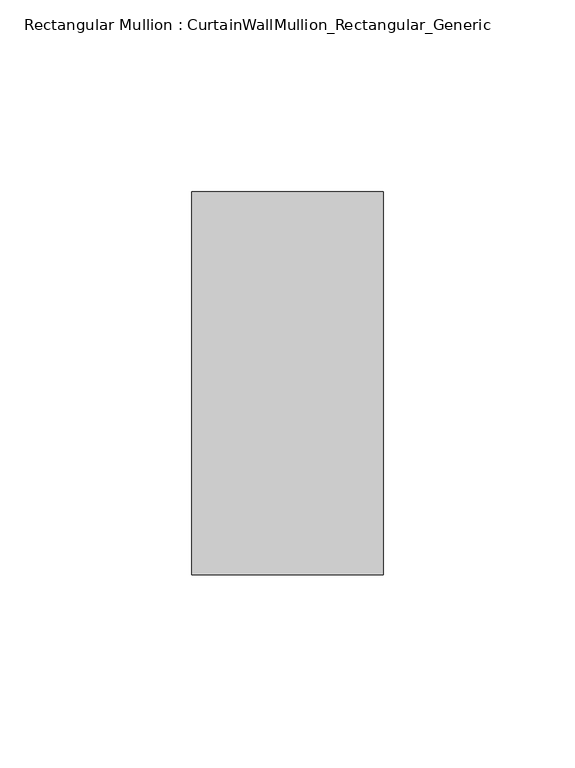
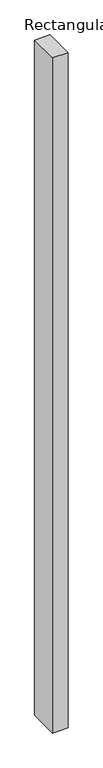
"""IFC4 building model written with IfcOpenShell, lengths in millimetres: member geometry, Rectangular Mullion : CurtainWallMullion_Rectangular_Generic."""

from ifc_helpers import new_model, si_unit, frame, origin, place, context, project, spatial, polyline, outline, extrude, source, transform, mapped, element, save


def rectangular_mullion_curtainwallmullion_rectangular_generic_1facc6e8(model_context):
    return source(origin(), model_context, "Body", "SweptSolid", [
        extrude(outline(polyline([(0.0, 50.0), (0.0, -50.0), (-50.0, -50.0), (-50.0, 50.0), (0.0, 50.0)])), frame((0.0, 0.0, -2302.2000002), z_axis=(0.0, 0.0, 1.0), x_axis=(1.0, 0.0, 0.0)), (0.0, 0.0, 1.0), 2302.2000002),
    ])


if __name__ == "__main__":
    model = new_model("IFC4")
    model_context = context("Model", 3, world=origin())
    ifc_project = project(units=[si_unit("LENGTHUNIT", "METRE", prefix="MILLI")], contexts=[model_context])
    site = spatial("IfcSite", under=ifc_project)
    building = spatial("IfcBuilding", under=site)
    placement = place(None, origin())
    rectangular_mullion_curtainwallmullion_rectangular_generic_shape = rectangular_mullion_curtainwallmullion_rectangular_generic_1facc6e8(model_context)
    element("IfcMember", 1, ObjectType="Rectangular Mullion : CurtainWallMullion_Rectangular_Generic", at=placement, inside=building, context=model_context, shape_type="MappedRepresentation", body=[
        mapped(rectangular_mullion_curtainwallmullion_rectangular_generic_shape, transform((0.0, 0.0, 0.0), x_axis=(1.0, 0.0, 0.0), y_axis=(0.0, 1.0, 0.0), z_axis=(0.0, 0.0, 1.0))),
    ])
    save(model, "model.ifc")
